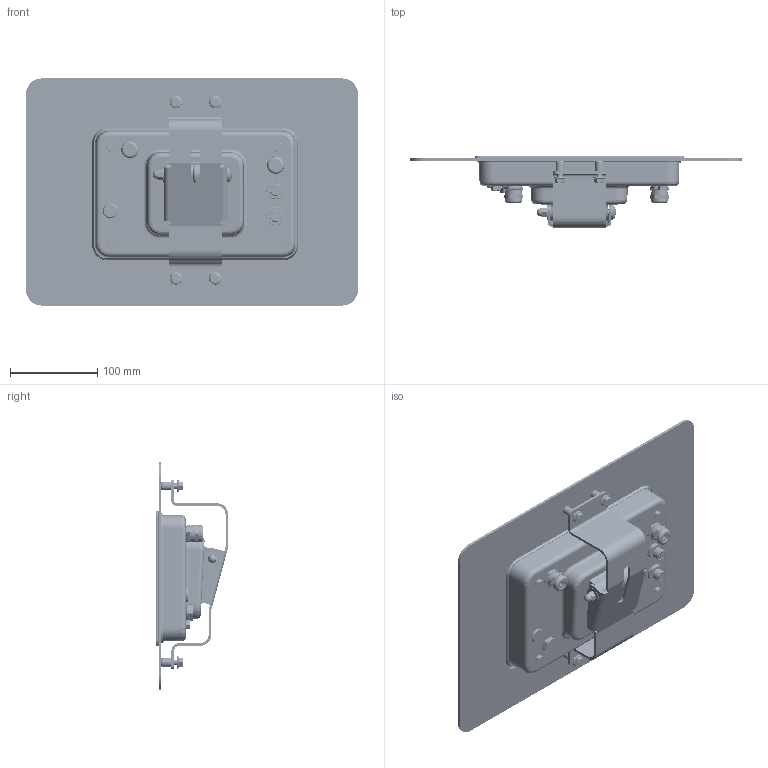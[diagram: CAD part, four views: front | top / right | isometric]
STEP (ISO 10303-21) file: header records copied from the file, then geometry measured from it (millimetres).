
FILE_DESCRIPTION((''),'2;1');
FILE_NAME('IND400_FINAL_ASM','2023-10-07T09:17:03',('tong-18'),(''),'CREO PARAMETRIC BY PTC INC, 2022014','CREO PARAMETRIC BY PTC INC, 2022014','');
FILE_SCHEMA(('CONFIG_CONTROL_DESIGN'));
Products named in the file (74): D000761747; D000762117; D000762132; D000762214; D000762140; D000762157; D000774879_ASM; D000762158; D000774874_ASM; D000762916_ASM; 72233225; 72233232; 72228893-1; 72228893-3; 72228893-2; INSERT-M4-8; 72228893_ASM; 72229267; 72242278; 72240254; 30370828_1; 30370828_2; 30370828_ASM; 72193754; D000385656_1_3; EMC_SHIELD; DIO_20201026; ACBASEBOARD20221214; IND400COREBOARD_20221209; IND400_PCBA_AC_ASM; ANALOGSCALEBOARD20221212; 72201467; 72242949; D000782467; D000782747; D000782751_ASM; 72261387; 72217972; 30766698; D000778015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
Assembly tree (150 placements, depth 5):
  IND400_FINAL_ASM
    30799031_REAR_COVER_ASSY_ASM
      D000762916_ASM
        D000761747
        D000762117
        D000762132  x2
        D000774879_ASM
          D000762214
          D000762140  x7
          D000762157
        D000774874_ASM
          D000762158
          D000762140  x2
          D000762157  x2
      72233225  x4
      72233232  x4
      72228893_ASM
        72228893-1
        72228893-3
        72228893-2  x2
        INSERT-M4-8  x4
      72229267
      72242278  x4
      72240254  x2
      30370828_ASM
        30370828_1
        30370828_2
      72193754  x4
      D000385656_1_3  x2
      IND400_PCBA_AC_ASM
        EMC_SHIELD
        DIO_20201026
        ACBASEBOARD20221214
        IND400COREBOARD_20221209
      ANALOGSCALEBOARD20221212
      72201467  x8
      72242949
      D000782751_ASM
        D000782467
        D000782747
      72261387
      72217972  x5
      30766698  x3
      D000778015
      72242279
      PAPER_SEAL_MTCT
    30799030_FRONT_COVER_ASSY_ASM
      30749318_FRONT_PANEL
      D000775416_ASM
        D000768587
        D000775407  x4
        D000775412  x2
      72242949  x8
      72242280  x4
      IND400_HMI_ASSY_ASM
        LCD_TP_ASSY
        IND400_KEYPAD_1104_ASM
          IND400-KEYBOARD_PANEL
          IND400_000
          000
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Bounding box: 380 x 82.89 x 260 mm (x, y, z)
Volume: 775710.4 mm3; surface area: 849177.5 mm2
Topology: 200 solids, 381 shells, 44007 faces, 122473 edges, 79827 vertices
Faces by surface type: plane 29569, cylinder 8987, extrusion 2315, sphere 1127, torus 923, cone 798, bspline 278, revolution 10
Entity records: 1363408 total; most frequent: CARTESIAN_POINT 294893, ORIENTED_EDGE 228048, DIRECTION 206967, EDGE_CURVE 115186, VECTOR 89795, LINE 87480, VERTEX_POINT 75711, AXIS2_PLACEMENT_3D 58585
